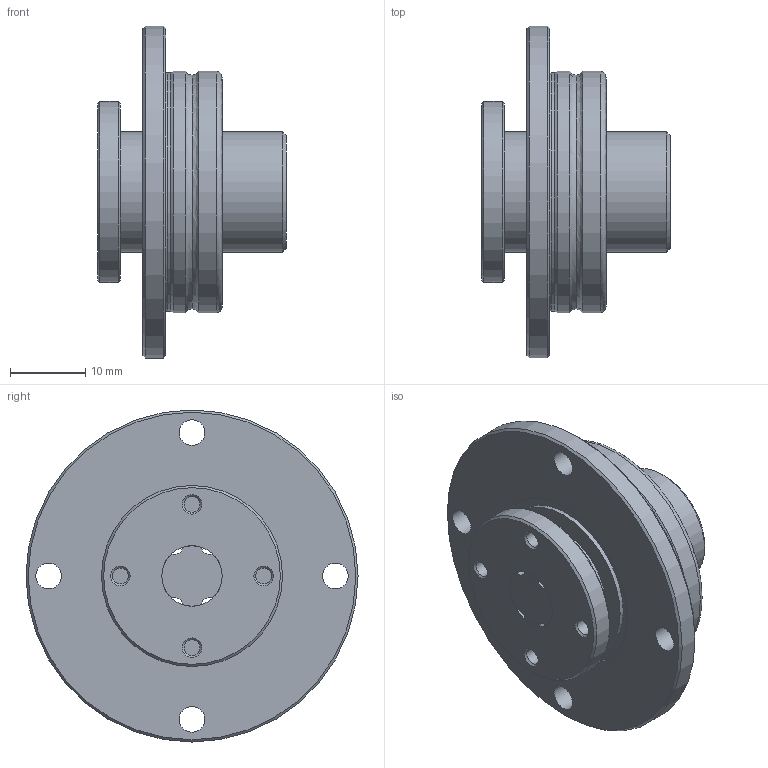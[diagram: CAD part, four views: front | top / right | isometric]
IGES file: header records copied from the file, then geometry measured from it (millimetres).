
Start section: Data from Parasolid IGES Translator 26.0.171, Copyright(c) 2006 Siemens PLM Software. All Rights Reserved.
Global section: file name: LTR8A+25L(0_0).igs; native system: By Siemens PLM Incorporated; preprocessor: XPlus GENERIC/IGES 26.0.171; author: Noname; organization: Noname; date: 20240528.075147; units: millimetre
Bounding box: 25 x 44 x 44 mm (x, y, z)
Surface area: 13360.6 mm2 (no closed solid volume)
Topology: 0 solids, 0 shells, 115 faces, 498 edges, 388 vertices
Faces by surface type: revolution 91, extrusion 24
